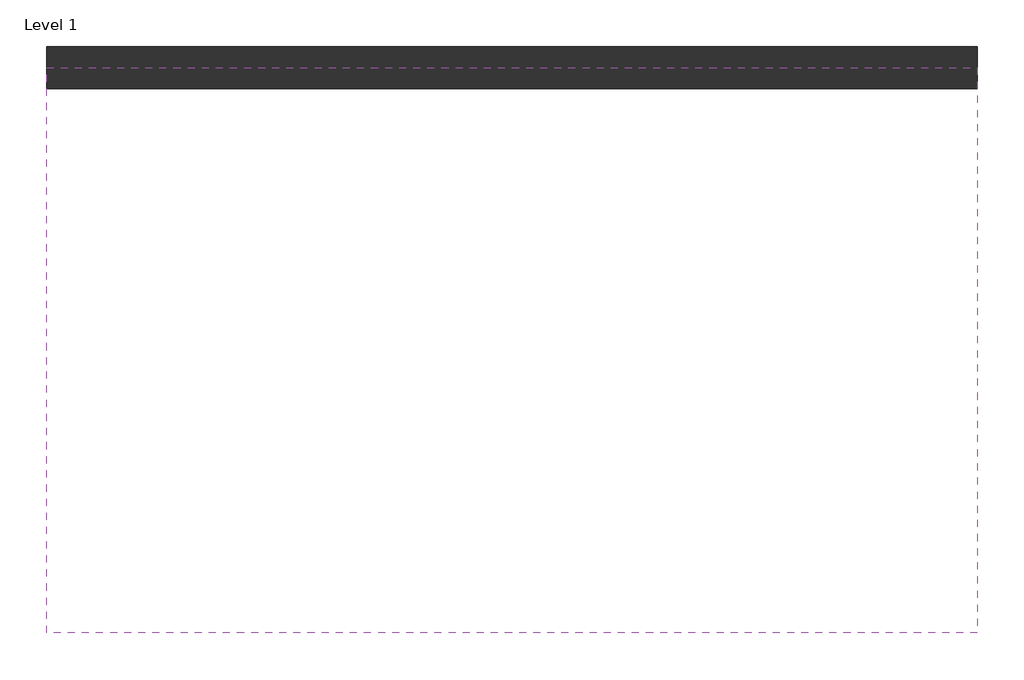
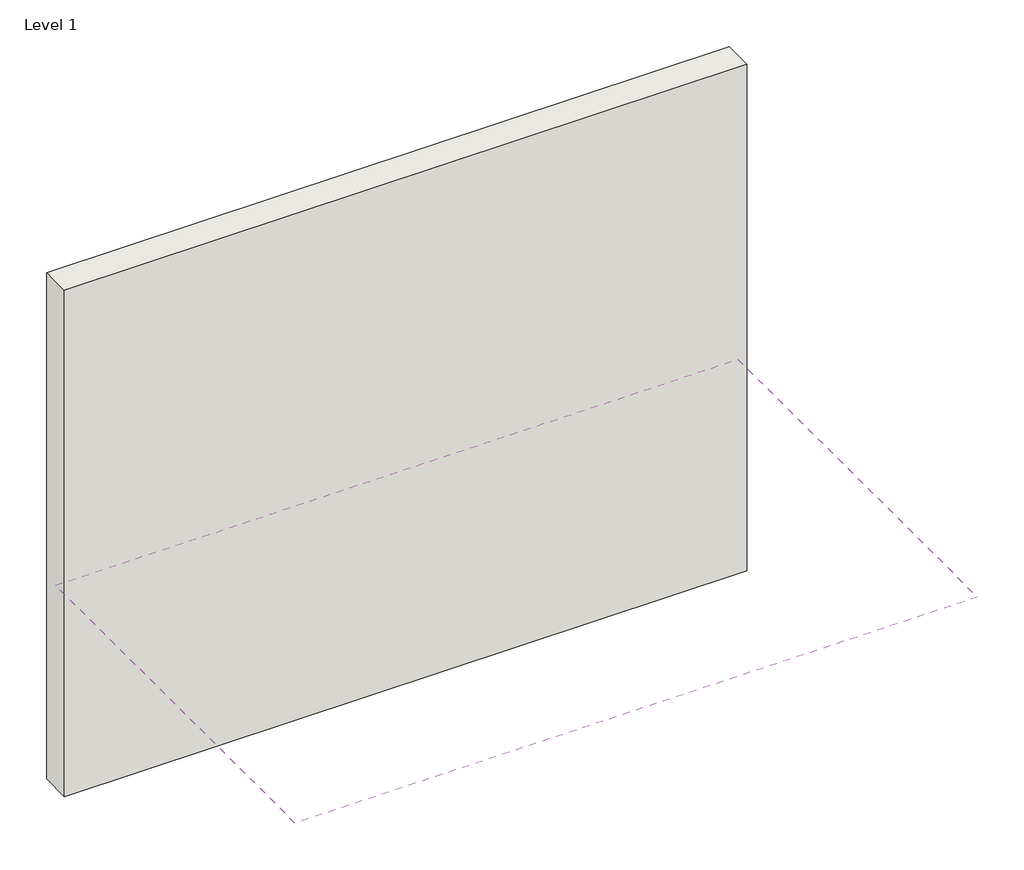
# One storey, incomplete: 1 covering, 1 wall.
"""IFC4 building model written with IfcOpenShell, lengths in millimetres."""

from ifc_helpers import new_model, si_unit, frame, origin, origin_with_axes, place, context, project, spatial, polyline, outline, extrude, element, save

model = new_model("IFC4")

# Units and contexts
model_context = context("Model", 3, world=origin())
ifc_project = project(units=[si_unit("LENGTHUNIT", "METRE", prefix="MILLI")], contexts=[model_context])

# Site, building, storey
site = spatial("IfcSite", under=ifc_project)
building = spatial("IfcBuilding", under=site)
storey = spatial("IfcBuildingStorey", under=building, Name="Level 1", Elevation=0.0)

# Covering
placement = place(None, origin())
element("IfcCovering", 1, ObjectType="2' x 4' ACT System", at=placement, inside=storey, context=model_context, shape_type="SweptSolid", body=[
    extrude(outline(polyline([(-4065.5199774, 6283.1270347), (3706.8800226, 6283.1270347), (3706.8800226, 1558.7270347), (-4065.5199774, 1558.7270347), (-4065.5199774, 6283.1270347)])), frame((0.0, 0.0, 2438.4), z_axis=(0.0, 0.0, 1.0), x_axis=(1.0, 0.0, 0.0)), (0.0, 0.0, 1.0), 57.15),
])

# Wall
element("IfcWall", 2, ObjectType="Exterior - Brick on Mtl. Stud", at=placement, inside=storey, context=model_context, shape_type="SweptSolid", body=[
    extrude(outline(polyline([(-4065.5199774, 6459.3395347), (3706.8800226, 6459.3395347), (3706.8800226, 6106.9145347), (-4065.5199774, 6106.9145347), (-4065.5199774, 6459.3395347)])), origin_with_axes(), (0.0, 0.0, 1.0), 6096.0),
])

save(model, "model.ifc")
